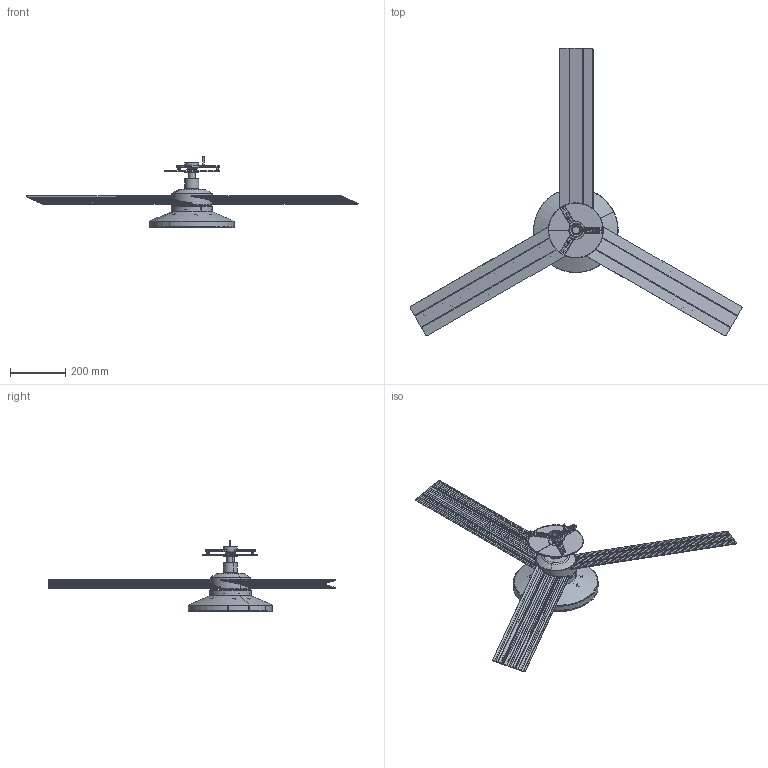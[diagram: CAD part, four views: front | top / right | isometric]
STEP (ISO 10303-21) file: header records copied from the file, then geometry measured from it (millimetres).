
FILE_DESCRIPTION(/* description */ (''),/* implementation_level */ '2;1');
FILE_NAME(/* name */ 'cruiser_tak_L_recess_3d',/* time_stamp */ '2026-06-18T12:34:41+02:00',/* author */ (''),/* organization */ (''),/* preprocessor_version */ 'ST-DEVELOPER v19.2',/* originating_system */ 'Rhino 8.30',/* authorisation */ '');
FILE_SCHEMA (('CONFIG_CONTROL_DESIGN'));
Length unit declared in the file: millimetre
Products named in the file (1): Document
Bounding box: 1201.3 x 1041.81 x 260.43 mm (x, y, z)
Volume: 319731.4 mm3; surface area: 1212044.2 mm2
Topology: 6 solids, 13 shells, 1098 faces, 2970 edges, 1890 vertices
Faces by surface type: plane 638, cylinder 356, bspline 104
Entity records: 39585 total; most frequent: CARTESIAN_POINT 17243, ORIENTED_EDGE 5883, EDGE_CURVE 2970, DIRECTION 2302, VERTEX_POINT 1889, B_SPLINE_CURVE_WITH_KNOTS 1836, AXIS2_PLACEMENT_3D 1647, EDGE_LOOP 1154
